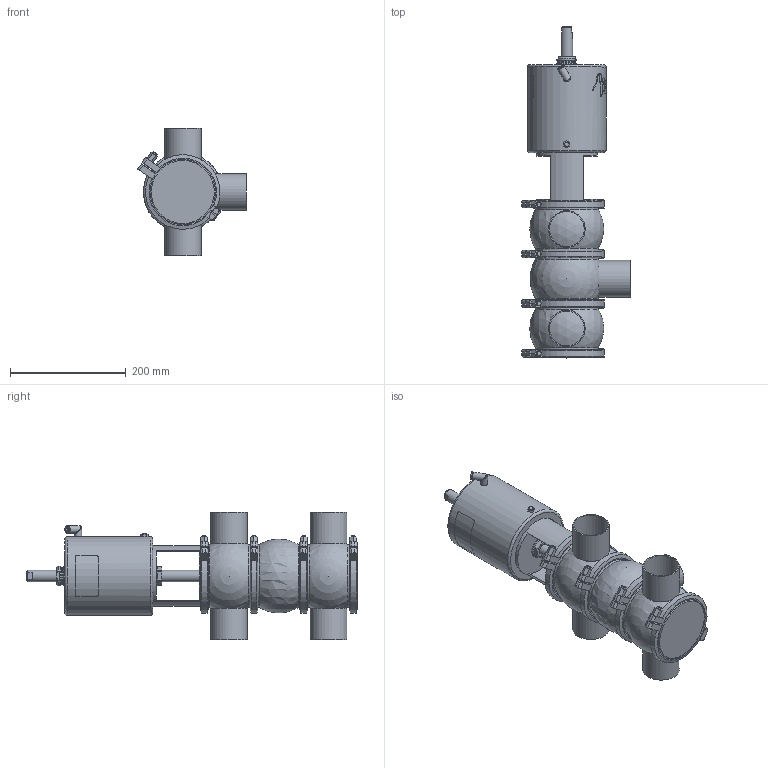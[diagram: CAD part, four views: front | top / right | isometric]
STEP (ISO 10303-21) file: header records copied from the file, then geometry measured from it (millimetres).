
FILE_DESCRIPTION (( 'STEP AP214' ), '1' );
FILE_NAME ('INNOVA L W W OD 2½ T3 AS NC_10.241.16.0028.STEP', '2024-08-07T07:09:15', ( '' ), ( '' ), 'SwSTEP 2.0', 'SolidWorks 2023', '' );
FILE_SCHEMA (( 'AUTOMOTIVE_DESIGN' ));
Length unit declared in the file: millimetre
Products named in the file (7): INNOVA L W W OD 2½ T3 AS NC_10.241.16.0028; 10.240.15.0006_OD 2½"; 10.240.15.0010_DN 065; 10.240.15.0001_DN 065; 10.241.15.0001_DIN 065; 10.240.15.0014_T3 AS P180; 10.240.15.0007_OD 2½"
Assembly tree (10 placements, depth 2):
  INNOVA L W W OD 2½ T3 AS NC_10.241.16.0028
    10.240.15.0007_OD 2½"  x2
    10.240.15.0006_OD 2½"
    10.240.15.0010_DN 065
    10.240.15.0014_T3 AS P180
    10.240.15.0001_DN 065  x4
    10.241.15.0001_DIN 065
Bounding box: 188.15 x 574.5 x 220 mm (x, y, z)
Volume: 5665472.9 mm3; surface area: 564256.1 mm2
Topology: 11 solids, 11 shells, 540 faces, 1416 edges, 923 vertices
Faces by surface type: plane 262, cylinder 140, bspline 80, cone 46, sphere 8, torus 4
Full cylindrical faces by diameter (mm): 6.15 x1, 8 x9, 8.5 x1, 10.5 x1, 12.5 x3, 16 x1, 20 x2, 31 x1, 34.5 x2, 36.5 x1, 60.2 x5, 63.5 x5, 105 x1, 109 x7, 121 x8, 136 x1
Entity records: 20751 total; most frequent: CARTESIAN_POINT 11322, ORIENTED_EDGE 1624, DIRECTION 1275, EDGE_CURVE 812, VERTEX_POINT 563, AXIS2_PLACEMENT_3D 493, EDGE_LOOP 431, FACE_OUTER_BOUND 386
